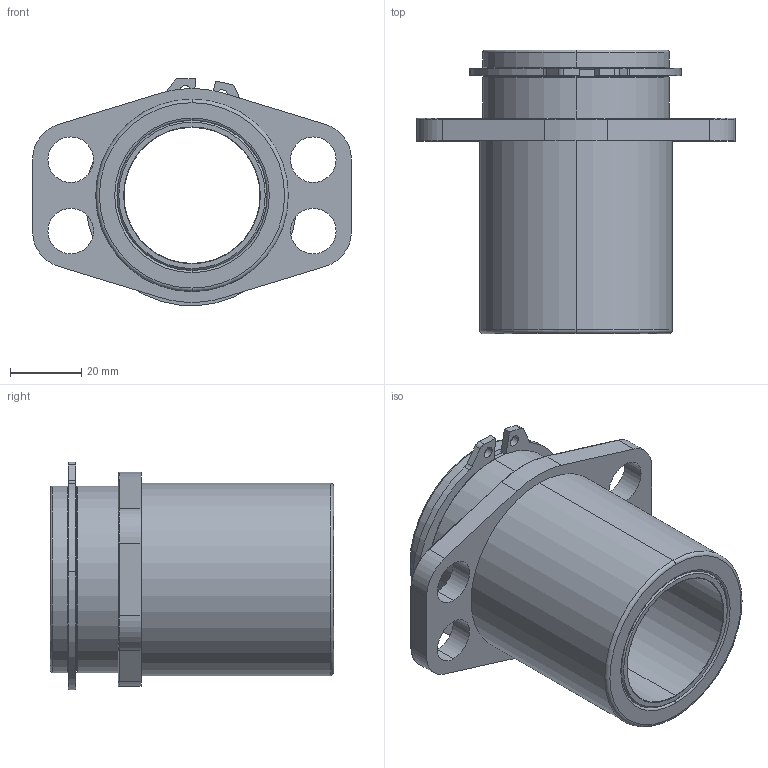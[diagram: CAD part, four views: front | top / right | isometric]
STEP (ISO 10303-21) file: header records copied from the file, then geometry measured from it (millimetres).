
FILE_DESCRIPTION (( 'STEP AP214' ), '1' );
FILE_NAME ('GK150-L3-M-Base.STEP', '2011-02-24T20:43:07', ( '' ), ( '' ), 'SwSTEP 2.0', 'SolidWorks 2010', '' );
FILE_SCHEMA (( 'AUTOMOTIVE_DESIGN' ));
Length unit declared in the file: inch
Products named in the file (4): GK150-L3-M-Base; Bushing-BU-1.5ID-3.0Long_Bushing-BU-1.5ID-3.0Long; RetainingRing-External-Standard-2.125Shaft_RetainingRing-External-Standard-2.125Shaft-L; Base-GK150-L_Base-GK150-L3-M-Cust
Assembly tree (3 placements, depth 2):
  GK150-L3-M-Base
    Base-GK150-L_Base-GK150-L3-M-Cust
    Bushing-BU-1.5ID-3.0Long_Bushing-BU-1.5ID-3.0Long
    RetainingRing-External-Standard-2.125Shaft_RetainingRing-External-Standard-2.125Shaft-L
Bounding box: 89.27 x 79.38 x 63.7 mm (x, y, z)
Volume: 98309.5 mm3; surface area: 52044.6 mm2
Topology: 3 solids, 3 shells, 97 faces, 229 edges, 141 vertices
Faces by surface type: cylinder 49, plane 21, torus 15, cone 12
Entity records: 3047 total; most frequent: DIRECTION 567, CARTESIAN_POINT 473, ORIENTED_EDGE 458, AXIS2_PLACEMENT_3D 235, EDGE_CURVE 229, VERTEX_POINT 141, CIRCLE 132, EDGE_LOOP 116
